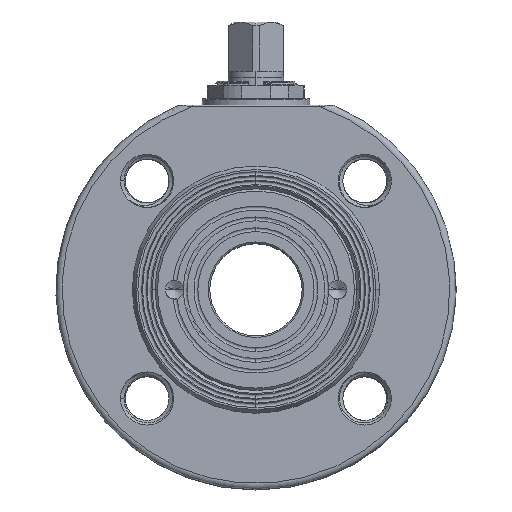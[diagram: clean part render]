
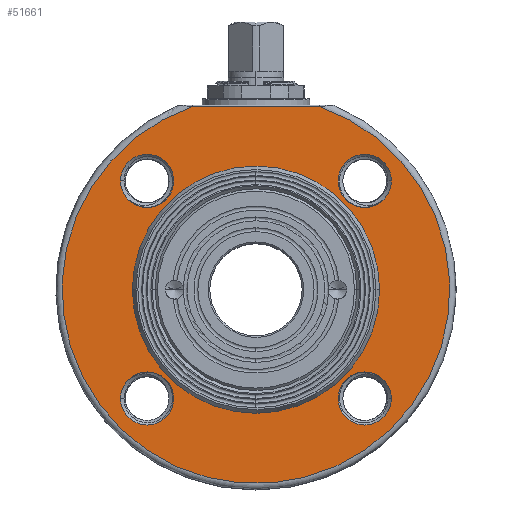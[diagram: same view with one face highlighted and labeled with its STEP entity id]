
A CAD part, top view. The second image highlights one B-rep face of the part: STEP entity #51661.
In plain terms, the highlighted planar face has unit normal (0, 0, 1).
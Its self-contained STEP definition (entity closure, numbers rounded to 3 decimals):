
#62=CARTESIAN_POINT('',(0.,0.,25.));
#63=DIRECTION('',(0.,0.,-1.));
#64=DIRECTION('',(0.329,0.944,0.));
#65=AXIS2_PLACEMENT_3D('',#62,#63,#64);
#70=CARTESIAN_POINT('',(0.,0.,25.));
#71=DIRECTION('',(0.,0.,1.));
#72=DIRECTION('',(1.,0.,0.));
#73=AXIS2_PLACEMENT_3D('',#70,#71,#72);
#78=CARTESIAN_POINT('',(0.,0.,25.));
#79=DIRECTION('',(0.,0.,-1.));
#80=DIRECTION('',(1.,0.,0.));
#81=AXIS2_PLACEMENT_3D('',#78,#79,#80);
#125=DIRECTION('',(1.,0.,0.));
#126=VECTOR('',#125,41.412);
#127=CARTESIAN_POINT('',(-20.705,59.5,25.));
#128=LINE('',#127,#126);
#5949=CARTESIAN_POINT('',(35.355,35.355,25.));
#5950=DIRECTION('',(0.,0.,-1.));
#5951=DIRECTION('',(1.,0.,0.));
#5952=AXIS2_PLACEMENT_3D('',#5949,#5950,#5951);
#6028=CARTESIAN_POINT('',(35.355,35.355,25.));
#6029=DIRECTION('',(0.,0.,-1.));
#6030=DIRECTION('',(-1.,0.,0.));
#6031=AXIS2_PLACEMENT_3D('',#6028,#6029,#6030);
#12293=CARTESIAN_POINT('',(-35.355,35.355,25.));
#12294=DIRECTION('',(0.,0.,-1.));
#12295=DIRECTION('',(1.,0.,0.));
#12296=AXIS2_PLACEMENT_3D('',#12293,#12294,#12295);
#12373=CARTESIAN_POINT('',(-35.355,35.355,25.));
#12374=DIRECTION('',(0.,0.,-1.));
#12375=DIRECTION('',(-1.,0.,0.));
#12376=AXIS2_PLACEMENT_3D('',#12373,#12374,#12375);
#19368=CARTESIAN_POINT('',(-35.355,-35.355,25.));
#19369=DIRECTION('',(0.,0.,-1.));
#19370=DIRECTION('',(-1.,0.,0.));
#19371=AXIS2_PLACEMENT_3D('',#19368,#19369,#19370);
#21223=CARTESIAN_POINT('',(-35.355,-35.355,25.));
#21224=DIRECTION('',(0.,0.,-1.));
#21225=DIRECTION('',(1.,0.,0.));
#21226=AXIS2_PLACEMENT_3D('',#21223,#21224,#21225);
#24584=CARTESIAN_POINT('',(35.355,-35.355,25.));
#24585=DIRECTION('',(0.,0.,-1.));
#24586=DIRECTION('',(-1.,0.,0.));
#24587=AXIS2_PLACEMENT_3D('',#24584,#24585,#24586);
#24664=CARTESIAN_POINT('',(35.355,-35.355,25.));
#24665=DIRECTION('',(0.,0.,-1.));
#24666=DIRECTION('',(1.,0.,0.));
#24667=AXIS2_PLACEMENT_3D('',#24664,#24665,#24666);
#49465=CARTESIAN_POINT('',(26.73,35.355,25.));
#49466=CARTESIAN_POINT('',(43.98,35.355,25.));
#49467=VERTEX_POINT('',#49465);
#49468=VERTEX_POINT('',#49466);
#49469=CARTESIAN_POINT('',(-26.73,35.355,25.));
#49470=CARTESIAN_POINT('',(-43.98,35.355,25.));
#49471=VERTEX_POINT('',#49469);
#49472=VERTEX_POINT('',#49470);
#49473=CARTESIAN_POINT('',(-26.73,-35.355,25.));
#49474=CARTESIAN_POINT('',(-43.98,-35.355,25.));
#49475=VERTEX_POINT('',#49473);
#49476=VERTEX_POINT('',#49474);
#49477=CARTESIAN_POINT('',(43.98,-35.355,25.));
#49478=CARTESIAN_POINT('',(26.73,-35.355,25.));
#49479=VERTEX_POINT('',#49477);
#49480=VERTEX_POINT('',#49478);
#49490=CARTESIAN_POINT('',(40.155,0.,25.));
#49492=VERTEX_POINT('',#49490);
#49498=CARTESIAN_POINT('',(-40.155,0.,25.));
#49500=VERTEX_POINT('',#49498);
#50028=CARTESIAN_POINT('',(20.706,59.5,25.));
#50029=CARTESIAN_POINT('',(-20.703,59.501,25.));
#50030=VERTEX_POINT('',#50028);
#50031=VERTEX_POINT('',#50029);
#51622=CARTESIAN_POINT('',(0.,0.,25.));
#51623=DIRECTION('',(0.,0.,1.));
#51624=DIRECTION('',(-1.,0.,0.));
#51625=AXIS2_PLACEMENT_3D('',#51622,#51623,#51624);
#51626=PLANE('',#51625);
#51628=ORIENTED_EDGE('',*,*,#51627,.T.);
#51630=ORIENTED_EDGE('',*,*,#51629,.T.);
#51631=EDGE_LOOP('',(#51628,#51630));
#51632=FACE_OUTER_BOUND('',#51631,.F.);
#51633=ORIENTED_EDGE('',*,*,#51610,.T.);
#51634=ORIENTED_EDGE('',*,*,#51587,.F.);
#51635=EDGE_LOOP('',(#51633,#51634));
#51636=FACE_BOUND('',#51635,.F.);
#51638=ORIENTED_EDGE('',*,*,#51637,.F.);
#51640=ORIENTED_EDGE('',*,*,#51639,.F.);
#51641=EDGE_LOOP('',(#51638,#51640));
#51642=FACE_BOUND('',#51641,.F.);
#51644=ORIENTED_EDGE('',*,*,#51643,.F.);
#51646=ORIENTED_EDGE('',*,*,#51645,.F.);
#51647=EDGE_LOOP('',(#51644,#51646));
#51648=FACE_BOUND('',#51647,.F.);
#51650=ORIENTED_EDGE('',*,*,#51649,.F.);
#51652=ORIENTED_EDGE('',*,*,#51651,.F.);
#51653=EDGE_LOOP('',(#51650,#51652));
#51654=FACE_BOUND('',#51653,.F.);
#51656=ORIENTED_EDGE('',*,*,#51655,.F.);
#51658=ORIENTED_EDGE('',*,*,#51657,.F.);
#51659=EDGE_LOOP('',(#51656,#51658));
#51660=FACE_BOUND('',#51659,.F.);
#51661=ADVANCED_FACE('',(#51632,#51636,#51642,#51648,#51654,#51660),#51626,.T.);
#66=CIRCLE('',#65,63.);
#74=CIRCLE('',#73,40.155);
#82=CIRCLE('',#81,40.155);
#5953=CIRCLE('',#5952,8.625);
#6032=CIRCLE('',#6031,8.625);
#12297=CIRCLE('',#12296,8.625);
#12377=CIRCLE('',#12376,8.625);
#19372=CIRCLE('',#19371,8.625);
#21227=CIRCLE('',#21226,8.625);
#24588=CIRCLE('',#24587,8.625);
#24668=CIRCLE('',#24667,8.625);
#51587=EDGE_CURVE('',#49492,#49500,#82,.T.);
#51610=EDGE_CURVE('',#49492,#49500,#74,.T.);
#51627=EDGE_CURVE('',#50030,#50031,#66,.T.);
#51629=EDGE_CURVE('',#50031,#50030,#128,.T.);
#51637=EDGE_CURVE('',#49467,#49468,#6032,.T.);
#51639=EDGE_CURVE('',#49468,#49467,#5953,.T.);
#51643=EDGE_CURVE('',#49472,#49471,#12377,.T.);
#51645=EDGE_CURVE('',#49471,#49472,#12297,.T.);
#51649=EDGE_CURVE('',#49476,#49475,#19372,.T.);
#51651=EDGE_CURVE('',#49475,#49476,#21227,.T.);
#51655=EDGE_CURVE('',#49480,#49479,#24588,.T.);
#51657=EDGE_CURVE('',#49479,#49480,#24668,.T.);
